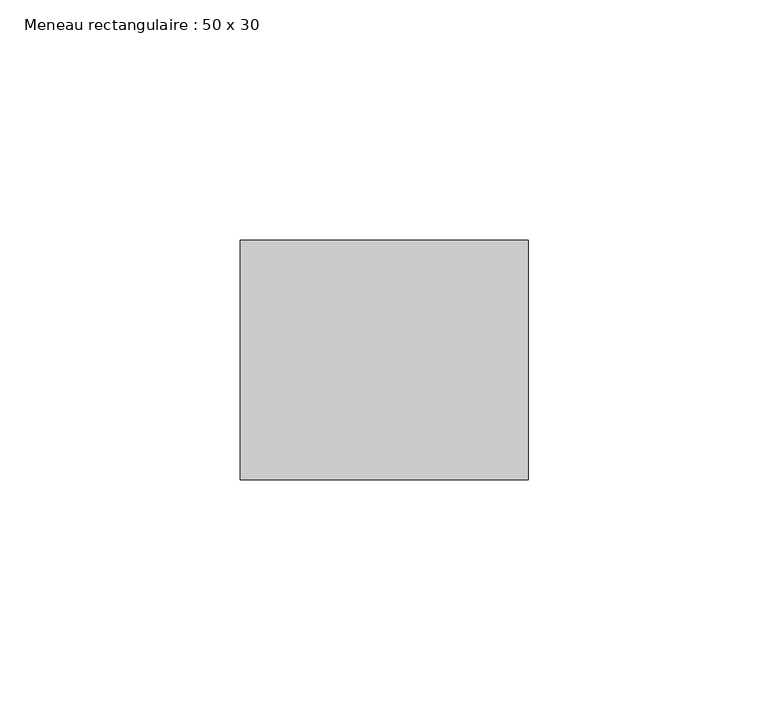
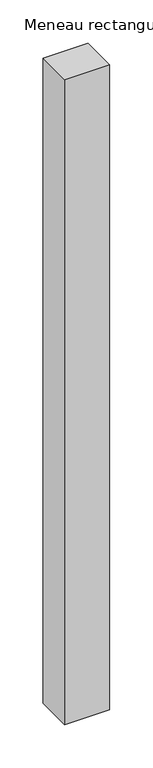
"""IFC4 building model written with IfcOpenShell, lengths in millimetres: member geometry, Meneau rectangulaire : 50 x 30."""

import ifcopenshell
import ifcopenshell.guid

model = None  # the IFC model being written
_history = None  # IfcOwnerHistory: only IFC2X3 demands one
_inside = {}  # id of a spatial element -> (the spatial element, [elements in it])
_under = {}  # id of a project, library or spatial element -> (it, [spatial elements below it])
_declared = {}  # id of a project -> (the project, [libraries it declares])
_typed = {}  # id of a type object -> (the type object, [elements of that type])
_made_of = {}  # id of a material, layer set ... -> (it, [elements and type objects made of it])


def new_model(schema):
    """Start an empty IFC model of exactly this schema.

    Asked for "IFC4X3", IfcOpenShell would pick the latest addendum, in which some entities
    have other attributes; the version numbers below select the first issue.
    IFC2X3 requires an IfcOwnerHistory on every rooted entity: one is made here for all.
    """
    global model, _history
    if schema == "IFC4X3":
        model = ifcopenshell.file(schema_version=(4, 3, 0, 0))
    else:
        model = ifcopenshell.file(schema=schema)
    _inside.clear()
    _under.clear()
    _declared.clear()
    _typed.clear()
    _made_of.clear()
    _history = None
    if model.schema == "IFC2X3":
        org = make("IfcOrganization", Name="unknown")
        user = make(
            "IfcPersonAndOrganization",
            ThePerson=make("IfcPerson", FamilyName="unknown"),
            TheOrganization=org,
        )
        app = make(
            "IfcApplication",
            ApplicationDeveloper=org,
            Version="unknown",
            ApplicationFullName="unknown",
            ApplicationIdentifier="unknown",
        )
        _history = make(
            "IfcOwnerHistory",
            OwningUser=user,
            OwningApplication=app,
            ChangeAction="ADDED",
            CreationDate=0,
        )
    return model


def make(cls, **values):
    """One entity of the class cls with the attributes given. An attribute that is None is left unset."""
    return model.create_entity(
        cls, **{name: value for name, value in values.items() if value is not None}
    )


def rooted(cls, **values):
    """An entity with a GlobalId (a new one), such as an element, a storey or a relation."""
    return make(cls, GlobalId=ifcopenshell.guid.new(), OwnerHistory=_history, **values)


def si_unit(unit_type, name, prefix=None):
    """IfcSIUnit, for example si_unit("LENGTHUNIT", "METRE", prefix="MILLI")."""
    return make("IfcSIUnit", UnitType=unit_type, Prefix=prefix, Name=name)


def assignment(units):
    """IfcUnitAssignment: the units of a project."""
    return None if units is None else make("IfcUnitAssignment", Units=units)


def point(xyz):
    """IfcCartesianPoint."""
    return None if xyz is None else make("IfcCartesianPoint", Coordinates=xyz)


def direction(xyz):
    """IfcDirection."""
    return None if xyz is None else make("IfcDirection", DirectionRatios=xyz)


def frame(location, z_axis=None, x_axis=None):
    """IfcAxis2Placement3D, a coordinate frame: its origin and axes. An axis left out is left unset."""
    return make(
        "IfcAxis2Placement3D",
        Location=point(location),
        Axis=direction(z_axis),
        RefDirection=direction(x_axis),
    )


def origin():
    """The frame at (0, 0, 0) with its axes left unset."""
    return frame((0.0, 0.0, 0.0))


def place(relative_to, where):
    """IfcLocalPlacement: puts the frame where relative to a parent placement (None: the world)."""
    return make(
        "IfcLocalPlacement", PlacementRelTo=relative_to, RelativePlacement=where
    )


def context(
    kind, dimensions, precision=None, world=None, true_north=None, identifier=None
):
    """IfcGeometricRepresentationContext, for example the 3D "Model" context."""
    return make(
        "IfcGeometricRepresentationContext",
        ContextIdentifier=identifier,
        ContextType=kind,
        CoordinateSpaceDimension=dimensions,
        Precision=precision,
        WorldCoordinateSystem=world,
        TrueNorth=true_north,
    )


def project(units=None, contexts=None):
    """IfcProject with its units and contexts."""
    return rooted(
        "IfcProject",
        Name="project",
        RepresentationContexts=contexts,
        UnitsInContext=assignment(units),
    )


def spatial(cls, under=None, at=None, **own):
    """A site, building, storey or space (cls), placed at a placement, below another one or the project."""
    s = rooted(cls, ObjectPlacement=at, **own)
    if under is not None:
        _under.setdefault(under.id(), (under, []))[1].append(s)
    return s


def polyline(points):
    """IfcPolyline through the points."""
    return make("IfcPolyline", Points=[point(p) for p in points])


def outline(outer, holes=None, kind="AREA"):
    """IfcArbitraryClosedProfileDef: a profile drawn as a closed curve; with holes, ...WithVoids."""
    if holes is None:
        return make("IfcArbitraryClosedProfileDef", ProfileType=kind, OuterCurve=outer)
    return make(
        "IfcArbitraryProfileDefWithVoids",
        ProfileType=kind,
        OuterCurve=outer,
        InnerCurves=holes,
    )


def extrude(swept, where, along, depth):
    """IfcExtrudedAreaSolid: the profile swept, set in the frame where, extruded along a direction by depth."""
    return make(
        "IfcExtrudedAreaSolid",
        SweptArea=swept,
        Position=where,
        ExtrudedDirection=direction(along),
        Depth=depth,
    )


def shape(context_of_items, identifier, shape_type, items):
    """IfcShapeRepresentation: the items that make up one representation, for example the "Body"."""
    return make(
        "IfcShapeRepresentation",
        ContextOfItems=context_of_items,
        RepresentationIdentifier=identifier,
        RepresentationType=shape_type,
        Items=items,
    )


def source(mapping_origin, context_of_items, identifier, shape_type, items):
    """IfcRepresentationMap: a shape defined once, which mapped items show again and again."""
    return make(
        "IfcRepresentationMap",
        MappingOrigin=mapping_origin,
        MappedRepresentation=shape(context_of_items, identifier, shape_type, items),
    )


def transform(
    local_origin,
    x_axis=None,
    y_axis=None,
    z_axis=None,
    scale=None,
    scale2=None,
    scale3=None,
    uniform=True,
):
    """IfcCartesianTransformationOperator3D, or its non-uniform kind. x_axis, y_axis, z_axis: its Axis1, 2, 3."""
    if uniform:
        return make(
            "IfcCartesianTransformationOperator3D",
            Axis1=direction(x_axis),
            Axis2=direction(y_axis),
            LocalOrigin=point(local_origin),
            Scale=scale,
            Axis3=direction(z_axis),
        )
    return make(
        "IfcCartesianTransformationOperator3DnonUniform",
        Axis1=direction(x_axis),
        Axis2=direction(y_axis),
        LocalOrigin=point(local_origin),
        Scale=scale,
        Axis3=direction(z_axis),
        Scale2=scale2,
        Scale3=scale3,
    )


def mapped(mapping_source, mapping_target):
    """IfcMappedItem: shows the shape of a source again, moved by a transform."""
    return make(
        "IfcMappedItem", MappingSource=mapping_source, MappingTarget=mapping_target
    )


def made_of(thing, what):
    """Note that an element or type object is made of a material, layer set ...; save() writes the relation."""
    if what is not None:
        _made_of.setdefault(what.id(), (what, []))[1].append(thing)
    return thing


def element(
    cls,
    number,
    at=None,
    inside=None,
    cuts=None,
    type_object=None,
    material=None,
    context=None,
    identifier="Body",
    shape_type=None,
    held_by="IfcProductDefinitionShape",
    body=None,
    shapes=None,
    **own,
):
    """One element of the class cls, such as IfcWall. Its Tag is "e" and its number.

    at: its placement. inside: the storey or other place that contains it. cuts: it is an
    opening in that element (IfcRelVoidsElement). A single representation is given by context,
    identifier, shape_type and body (its items); several are given by shapes. held_by: the class
    of the entity that holds the representations. save() writes the other relations.
    """
    e = rooted(cls, Tag="e%d" % number, ObjectPlacement=at, **own)
    if body is not None:
        shapes = [shape(context, identifier, shape_type, body)]
    if shapes is not None:
        e.Representation = make(held_by, Representations=shapes)
    if inside is not None:
        _inside.setdefault(inside.id(), (inside, []))[1].append(e)
    if cuts is not None:
        rooted(
            "IfcRelVoidsElement", RelatingBuildingElement=cuts, RelatedOpeningElement=e
        )
    if type_object is not None:
        _typed.setdefault(type_object.id(), (type_object, []))[1].append(e)
    return made_of(e, material)


def aggregate(whole, parts):
    """IfcRelAggregates: a whole, such as a stair, and the parts it consists of."""
    return rooted("IfcRelAggregates", RelatingObject=whole, RelatedObjects=parts)


def save(model, path):
    """Write the relations noted so far, then the file.

    IfcRelAggregates (storeys below a building ...), IfcRelContainedInSpatialStructure (elements
    in a storey), IfcRelDefinesByType, IfcRelAssociatesMaterial and IfcRelDeclares: one each for
    every whole, place, type object, material and project.
    """
    for whole, parts in _under.values():
        aggregate(whole, parts)
    for where, things in _inside.values():
        rooted(
            "IfcRelContainedInSpatialStructure",
            RelatedElements=things,
            RelatingStructure=where,
        )
    for kind, things in _typed.values():
        rooted("IfcRelDefinesByType", RelatedObjects=things, RelatingType=kind)
    for what, things in _made_of.values():
        rooted("IfcRelAssociatesMaterial", RelatedObjects=things, RelatingMaterial=what)
    for by, libraries in _declared.values():
        rooted("IfcRelDeclares", RelatingContext=by, RelatedDefinitions=libraries)
    model.write(path)


def meneau_rectangulaire_50_x_30_e122cdf7(model_context):
    return source(origin(), model_context, "Body", "SweptSolid", [
        extrude(outline(polyline([(30.0, 0.0), (30.0, -50.0), (-30.0, -50.0), (-30.0, 0.0), (30.0, 0.0)])), frame((0.0, 0.0, -910.0), z_axis=(0.0, 0.0, 1.0), x_axis=(1.0, 0.0, 0.0)), (0.0, 0.0, 1.0), 910.0),
    ])


if __name__ == "__main__":
    model = new_model("IFC4")
    model_context = context("Model", 3, world=origin())
    ifc_project = project(units=[si_unit("LENGTHUNIT", "METRE", prefix="MILLI")], contexts=[model_context])
    site = spatial("IfcSite", under=ifc_project)
    building = spatial("IfcBuilding", under=site)
    placement = place(None, origin())
    meneau_rectangulaire_50_x_30_shape = meneau_rectangulaire_50_x_30_e122cdf7(model_context)
    element("IfcMember", 1, ObjectType="Meneau rectangulaire : 50 x 30", at=placement, inside=building, context=model_context, shape_type="MappedRepresentation", body=[
        mapped(meneau_rectangulaire_50_x_30_shape, transform((0.0, 0.0, 0.0), x_axis=(1.0, 0.0, 0.0), y_axis=(0.0, 1.0, 0.0), z_axis=(0.0, 0.0, 1.0))),
    ])
    save(model, "model.ifc")
